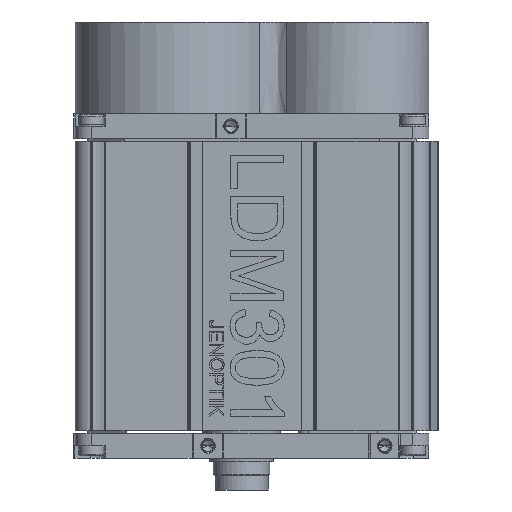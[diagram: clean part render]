
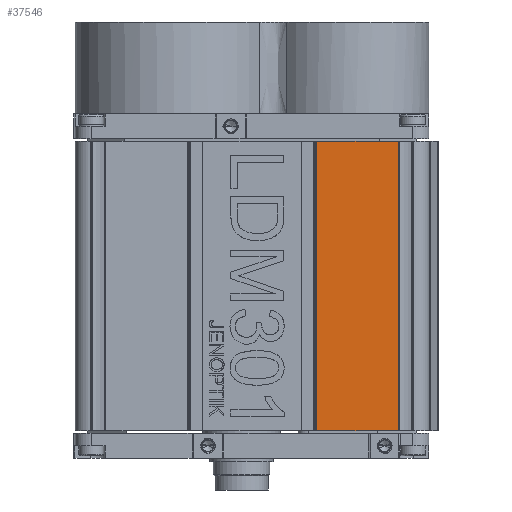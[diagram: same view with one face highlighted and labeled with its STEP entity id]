
A CAD part, front view. The second image highlights one B-rep face of the part: STEP entity #37546.
In plain terms, the highlighted planar face has unit normal (0, -1, 0).
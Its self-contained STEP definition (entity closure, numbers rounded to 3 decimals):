
#27263=DIRECTION('',(1.,0.,0.));
#27264=VECTOR('',#27263,23.135);
#27265=CARTESIAN_POINT('',(18.25,-28.,-111.7));
#27266=LINE('',#27265,#27264);
#27984=DIRECTION('',(1.,0.,0.));
#27985=VECTOR('',#27984,23.135);
#27986=CARTESIAN_POINT('',(18.25,-28.,-29.7));
#27987=LINE('',#27986,#27985);
#29624=DIRECTION('',(0.,0.,1.));
#29625=VECTOR('',#29624,82.);
#29626=CARTESIAN_POINT('',(41.385,-28.,-111.7));
#29627=LINE('',#29626,#29625);
#29628=DIRECTION('',(0.,0.,-1.));
#29629=VECTOR('',#29628,82.);
#29630=CARTESIAN_POINT('',(18.25,-28.,-29.7));
#29631=LINE('',#29630,#29629);
#33674=CARTESIAN_POINT('',(18.25,-28.,-111.7));
#33676=VERTEX_POINT('',#33674);
#33679=CARTESIAN_POINT('',(18.25,-28.,-29.7));
#33681=VERTEX_POINT('',#33679);
#33838=CARTESIAN_POINT('',(41.385,-28.,-29.7));
#33840=VERTEX_POINT('',#33838);
#33844=CARTESIAN_POINT('',(41.385,-28.,-111.7));
#33845=VERTEX_POINT('',#33844);
#37534=CARTESIAN_POINT('',(-50.,-28.,-111.7));
#37535=DIRECTION('',(0.,-1.,0.));
#37536=DIRECTION('',(1.,0.,0.));
#37537=AXIS2_PLACEMENT_3D('',#37534,#37535,#37536);
#37538=PLANE('',#37537);
#37539=ORIENTED_EDGE('',*,*,#37502,.F.);
#37540=ORIENTED_EDGE('',*,*,#35205,.F.);
#37542=ORIENTED_EDGE('',*,*,#37541,.F.);
#37543=ORIENTED_EDGE('',*,*,#35719,.T.);
#37544=EDGE_LOOP('',(#37539,#37540,#37542,#37543));
#37545=FACE_OUTER_BOUND('',#37544,.F.);
#37546=ADVANCED_FACE('',(#37545),#37538,.T.);
#35205=EDGE_CURVE('',#33676,#33845,#27266,.T.);
#35719=EDGE_CURVE('',#33681,#33840,#27987,.T.);
#37502=EDGE_CURVE('',#33845,#33840,#29627,.T.);
#37541=EDGE_CURVE('',#33681,#33676,#29631,.T.);
